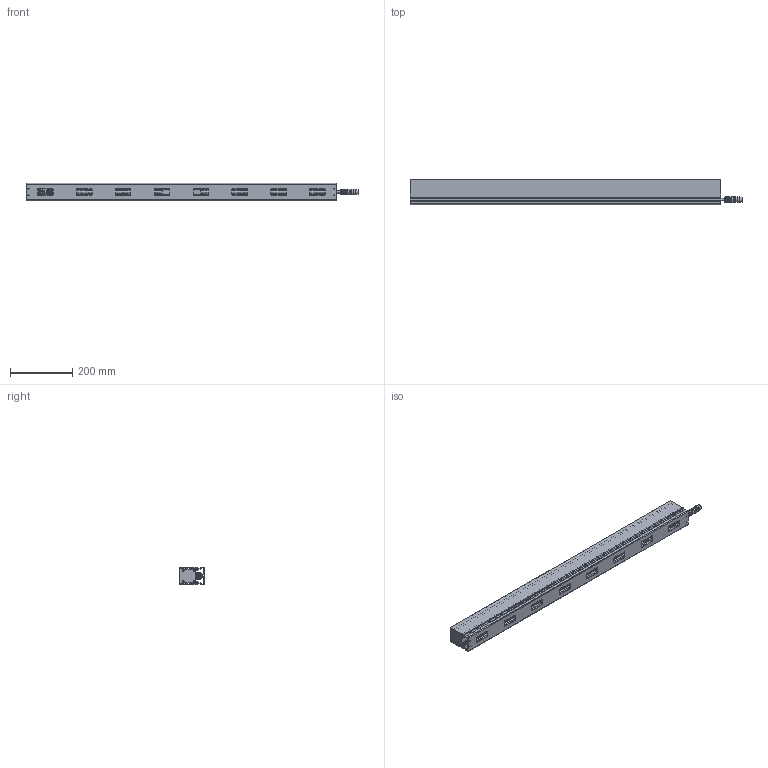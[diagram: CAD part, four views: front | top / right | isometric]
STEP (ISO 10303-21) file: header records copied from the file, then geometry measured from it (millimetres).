
FILE_DESCRIPTION (( 'STEP AP214' ), '1' );
FILE_NAME ('Linear Inground - L1000.STEP', '2025-08-26T12:13:09', ( '' ), ( '' ), 'SwSTEP 2.0', 'SolidWorks 2025', '' );
FILE_SCHEMA (( 'AUTOMOTIVE_DESIGN' ));
Length unit declared in the file: millimetre
Products named in the file (7): Linear Inground - L1000; Linear Inground - Bracket_L1000; Linear Inground - Body_L1000; Part115^Linear Inground_L1000; Linear Inground - Cable_L1000; M17 5p Male; M17 5p Female
Assembly tree (6 placements, depth 2):
  Linear Inground - L1000
    Linear Inground - Bracket_L1000
    Linear Inground - Body_L1000
    Part115^Linear Inground_L1000
    M17 5p Male
    M17 5p Female
    Linear Inground - Cable_L1000
Bounding box: 1068 x 80.6 x 55 mm (x, y, z)
Volume: 3018585.7 mm3; surface area: 768531.6 mm2
Topology: 10 solids, 22 shells, 1944 faces, 4777 edges, 2913 vertices
Faces by surface type: cylinder 735, plane 726, cone 176, torus 147, bspline 142, sphere 18
Full cylindrical faces by diameter (mm): 2.7 x4, 3.2 x4, 15 x2, 16 x1, 16.6 x1
Entity records: 79273 total; most frequent: CARTESIAN_POINT 24853, ORIENTED_EDGE 9418, DIRECTION 9040, EDGE_CURVE 4709, AXIS2_PLACEMENT_3D 3546, VERTEX_POINT 2899, EDGE_LOOP 2086, FACE_OUTER_BOUND 1958
